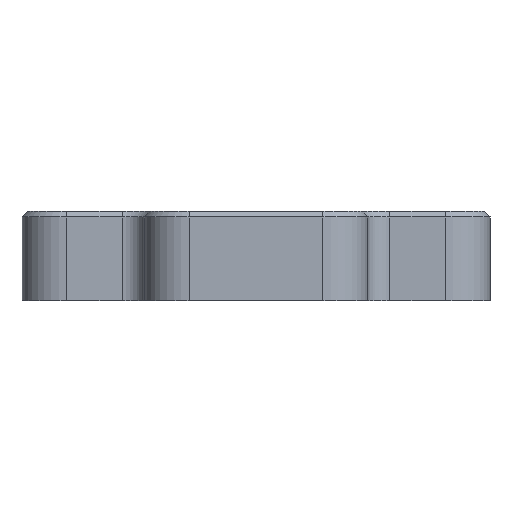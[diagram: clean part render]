
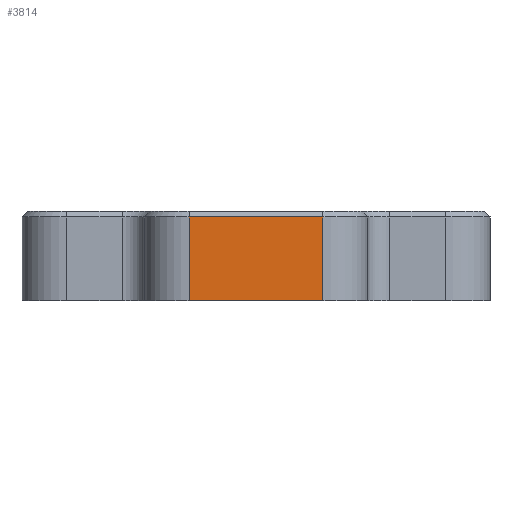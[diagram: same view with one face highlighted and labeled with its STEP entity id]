
A CAD part, left-side view. The second image highlights one B-rep face of the part: STEP entity #3814.
In plain terms, the highlighted planar face has unit normal (-1, 0, 0).
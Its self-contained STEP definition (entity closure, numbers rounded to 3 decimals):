
#88 = CARTESIAN_POINT ( 'NONE',  ( -31., 6., 7.5 ) ) ;
#405 = VECTOR ( 'NONE', #1789, 1000. ) ;
#481 = DIRECTION ( 'NONE',  ( 0., -1., 0. ) ) ;
#501 = DIRECTION ( 'NONE',  ( 0., 1., 0. ) ) ;
#526 = VERTEX_POINT ( 'NONE', #904 ) ;
#529 = VERTEX_POINT ( 'NONE', #930 ) ;
#807 = AXIS2_PLACEMENT_3D ( 'NONE', #1825, #4518, #2243 ) ;
#904 = CARTESIAN_POINT ( 'NONE',  ( -31., 6., 0. ) ) ;
#930 = CARTESIAN_POINT ( 'NONE',  ( -31., -6., 0. ) ) ;
#1146 = ORIENTED_EDGE ( 'NONE', *, *, #1652, .T. ) ;
#1294 = CARTESIAN_POINT ( 'NONE',  ( -31., 6., 0. ) ) ;
#1344 = ORIENTED_EDGE ( 'NONE', *, *, #4972, .F. ) ;
#1652 = EDGE_CURVE ( 'NONE', #1793, #526, #3529, .T. ) ;
#1781 = PLANE ( 'NONE',  #807 ) ;
#1789 = DIRECTION ( 'NONE',  ( 0., 0., -1. ) ) ;
#1793 = VERTEX_POINT ( 'NONE', #2855 ) ;
#1825 = CARTESIAN_POINT ( 'NONE',  ( -31., 6., 8. ) ) ;
#1976 = VERTEX_POINT ( 'NONE', #4832 ) ;
#2134 = LINE ( 'NONE', #88, #4036 ) ;
#2243 = DIRECTION ( 'NONE',  ( 0., 0., -1. ) ) ;
#2513 = FACE_OUTER_BOUND ( 'NONE', #4565, .T. ) ;
#2635 = VECTOR ( 'NONE', #481, 1000. ) ;
#2645 = CARTESIAN_POINT ( 'NONE',  ( -31., 6., 8. ) ) ;
#2855 = CARTESIAN_POINT ( 'NONE',  ( -31., 6., 7.5 ) ) ;
#2887 = EDGE_CURVE ( 'NONE', #1976, #1793, #2134, .T. ) ;
#2989 = VECTOR ( 'NONE', #4526, 1000. ) ;
#3114 = LINE ( 'NONE', #3768, #2989 ) ;
#3355 = ORIENTED_EDGE ( 'NONE', *, *, #3646, .T. ) ;
#3529 = LINE ( 'NONE', #2645, #405 ) ;
#3646 = EDGE_CURVE ( 'NONE', #526, #529, #4092, .T. ) ;
#3768 = CARTESIAN_POINT ( 'NONE',  ( -31., -6., 8. ) ) ;
#3814 = ADVANCED_FACE ( 'NONE', ( #2513 ), #1781, .F. ) ;
#4036 = VECTOR ( 'NONE', #501, 1000. ) ;
#4092 = LINE ( 'NONE', #1294, #2635 ) ;
#4518 = DIRECTION ( 'NONE',  ( 1., 0., 0. ) ) ;
#4526 = DIRECTION ( 'NONE',  ( 0., 0., -1. ) ) ;
#4557 = ORIENTED_EDGE ( 'NONE', *, *, #2887, .T. ) ;
#4565 = EDGE_LOOP ( 'NONE', ( #1344, #4557, #1146, #3355 ) ) ;
#4832 = CARTESIAN_POINT ( 'NONE',  ( -31., -6., 7.5 ) ) ;
#4972 = EDGE_CURVE ( 'NONE', #1976, #529, #3114, .T. ) ;
